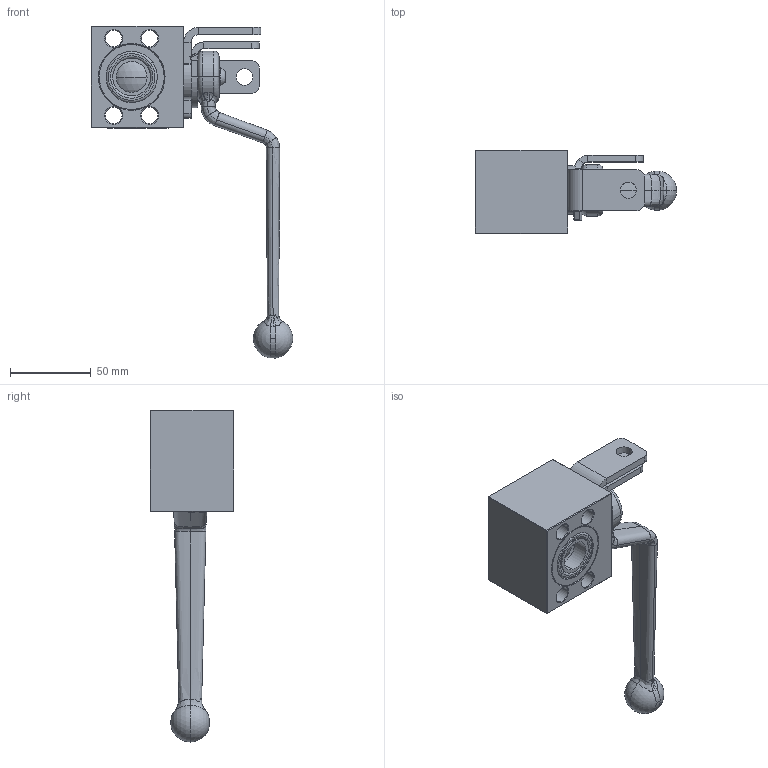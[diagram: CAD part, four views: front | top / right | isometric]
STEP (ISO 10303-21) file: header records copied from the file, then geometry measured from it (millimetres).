
FILE_DESCRIPTION (( 'STEP AP214' ), '1' );
FILE_NAME ('IBF-C-6112-NDT -Closed~.STEP', '2025-12-01T14:31:18', ( '' ), ( '' ), 'SwSTEP 2.0', 'SolidWorks 2023', '' );
FILE_SCHEMA (( 'AUTOMOTIVE_DESIGN' ));
Products named in the file (1): IBF-C-6112-NDT -Closed~
Bounding box: 124.8 x 51.69 x 205.68 mm (x, y, z)
Volume: 205056.5 mm3; surface area: 68766.7 mm2
Topology: 2 solids, 5 shells, 1061 faces, 2938 edges, 1910 vertices
Faces by surface type: plane 503, bspline 190, cylinder 188, torus 77, cone 67, sphere 36
Entity records: 59555 total; most frequent: CARTESIAN_POINT 34387, ORIENTED_EDGE 5868, DIRECTION 4359, EDGE_CURVE 2934, VERTEX_POINT 1910, AXIS2_PLACEMENT_3D 1513, VECTOR 1333, LINE 1333
